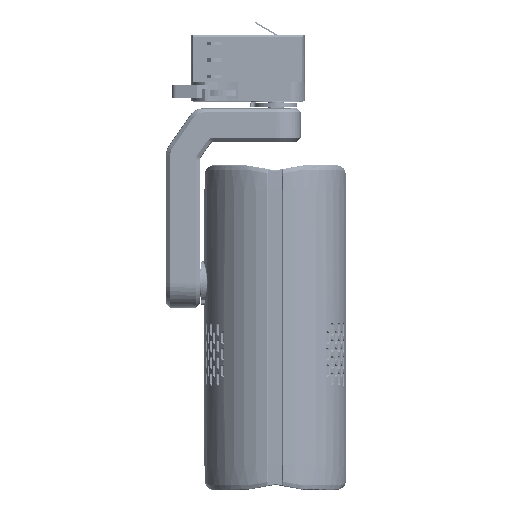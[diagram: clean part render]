
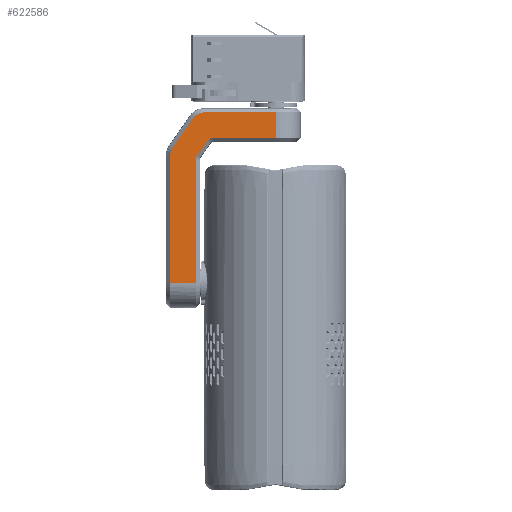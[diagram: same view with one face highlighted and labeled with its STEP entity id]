
A CAD part, top view. The second image highlights one B-rep face of the part: STEP entity #622586.
In plain terms, the highlighted planar face has unit normal (0, 0, 1).
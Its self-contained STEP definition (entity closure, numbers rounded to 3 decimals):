
#621403=CARTESIAN_POINT('',(64.,107.562,26.));
#621404=VERTEX_POINT('',#621403);
#621593=CARTESIAN_POINT('',(64.,122.938,26.));
#621594=VERTEX_POINT('',#621593);
#621908=CARTESIAN_POINT('',(15.688,20.,26.));
#621909=VERTEX_POINT('',#621908);
#622039=CARTESIAN_POINT('',(0.312,20.,26.));
#622040=VERTEX_POINT('',#622039);
#622152=CARTESIAN_POINT('',(15.688,94.439,26.));
#622153=VERTEX_POINT('',#622152);
#622154=CARTESIAN_POINT('',(15.688,20.,26.));
#622155=DIRECTION('',(0.,1.,0.));
#622156=VECTOR('',#622155,74.439);
#622157=LINE('',#622154,#622156);
#622158=EDGE_CURVE('',#621909,#622153,#622157,.T.);
#622197=CARTESIAN_POINT('',(16.473,96.929,26.));
#622198=VERTEX_POINT('',#622197);
#622205=CARTESIAN_POINT('',(15.688,94.439,26.));
#622206=CARTESIAN_POINT('',(15.688,94.885,26.));
#622207=CARTESIAN_POINT('',(15.756,95.319,26.));
#622208=CARTESIAN_POINT('',(15.889,95.743,26.));
#622209=CARTESIAN_POINT('',(16.023,96.168,26.));
#622210=CARTESIAN_POINT('',(16.218,96.564,26.));
#622211=CARTESIAN_POINT('',(16.473,96.929,26.));
#622212=B_SPLINE_CURVE_WITH_KNOTS('',3,(#622205,#622206,#622207,#622208,#622209,#622210,#622211),.UNSPECIFIED.,.F.,.F.,(4,3,4),(0.,0.001,0.003),.UNSPECIFIED.);
#622213=EDGE_CURVE('',#622153,#622198,#622212,.T.);
#622224=CARTESIAN_POINT('',(22.623,105.711,26.));
#622225=VERTEX_POINT('',#622224);
#622226=CARTESIAN_POINT('',(16.473,96.929,26.));
#622227=DIRECTION('',(0.574,0.819,0.));
#622228=VECTOR('',#622227,10.722);
#622229=LINE('',#622226,#622228);
#622230=EDGE_CURVE('',#622198,#622225,#622229,.T.);
#622273=CARTESIAN_POINT('',(26.178,107.562,26.));
#622274=VERTEX_POINT('',#622273);
#622281=CARTESIAN_POINT('',(22.623,105.711,26.));
#622282=CARTESIAN_POINT('',(22.824,105.998,26.));
#622283=CARTESIAN_POINT('',(23.055,106.256,26.));
#622284=CARTESIAN_POINT('',(23.316,106.484,26.));
#622285=CARTESIAN_POINT('',(23.446,106.599,26.));
#622286=CARTESIAN_POINT('',(23.585,106.706,26.));
#622287=CARTESIAN_POINT('',(23.728,106.805,26.));
#622288=CARTESIAN_POINT('',(23.872,106.903,26.));
#622289=CARTESIAN_POINT('',(24.02,106.992,26.));
#622290=CARTESIAN_POINT('',(24.174,107.071,26.));
#622291=CARTESIAN_POINT('',(24.327,107.151,26.));
#622292=CARTESIAN_POINT('',(24.485,107.221,26.));
#622293=CARTESIAN_POINT('',(24.647,107.283,26.));
#622294=CARTESIAN_POINT('',(24.81,107.344,26.));
#622295=CARTESIAN_POINT('',(24.978,107.396,26.));
#622296=CARTESIAN_POINT('',(25.146,107.438,26.));
#622297=CARTESIAN_POINT('',(25.484,107.52,26.));
#622298=CARTESIAN_POINT('',(25.828,107.562,26.));
#622299=CARTESIAN_POINT('',(26.178,107.562,26.));
#622300=B_SPLINE_CURVE_WITH_KNOTS('',3,(#622281,#622282,#622283,#622284,#622285,#622286,#622287,#622288,#622289,#622290,#622291,#622292,#622293,#622294,#622295,#622296,#622297,#622298,#622299),.UNSPECIFIED.,.F.,.F.,(4,3,3,3,3,3,4),(0.,0.001,0.002,0.002,0.003,0.003,0.004),.UNSPECIFIED.);
#622301=EDGE_CURVE('',#622225,#622274,#622300,.T.);
#622312=CARTESIAN_POINT('',(26.178,107.562,26.));
#622313=DIRECTION('',(1.,0.,-0.));
#622314=VECTOR('',#622313,37.822);
#622315=LINE('',#622312,#622314);
#622316=EDGE_CURVE('',#622274,#621404,#622315,.T.);
#622332=CARTESIAN_POINT('',(64.,107.562,26.));
#622333=DIRECTION('',(0.,1.,0.));
#622334=VECTOR('',#622333,15.376);
#622335=LINE('',#622332,#622334);
#622336=EDGE_CURVE('',#621404,#621594,#622335,.T.);
#622346=CARTESIAN_POINT('',(20.511,122.938,26.));
#622347=VERTEX_POINT('',#622346);
#622348=CARTESIAN_POINT('',(64.,122.938,26.));
#622349=DIRECTION('',(-1.,-0.,0.));
#622350=VECTOR('',#622349,43.489);
#622351=LINE('',#622348,#622350);
#622352=EDGE_CURVE('',#621594,#622347,#622351,.T.);
#622407=CARTESIAN_POINT('',(14.238,119.672,26.));
#622408=VERTEX_POINT('',#622407);
#622415=CARTESIAN_POINT('',(20.511,122.938,26.));
#622416=CARTESIAN_POINT('',(19.893,122.938,26.));
#622417=CARTESIAN_POINT('',(19.288,122.864,26.));
#622418=CARTESIAN_POINT('',(18.694,122.72,26.));
#622419=CARTESIAN_POINT('',(18.546,122.683,26.));
#622420=CARTESIAN_POINT('',(18.398,122.643,26.));
#622421=CARTESIAN_POINT('',(18.252,122.597,26.));
#622422=CARTESIAN_POINT('',(18.105,122.552,26.));
#622423=CARTESIAN_POINT('',(17.958,122.502,26.));
#622424=CARTESIAN_POINT('',(17.814,122.448,26.));
#622425=CARTESIAN_POINT('',(17.526,122.339,26.));
#622426=CARTESIAN_POINT('',(17.247,122.214,26.));
#622427=CARTESIAN_POINT('',(16.977,122.074,26.));
#622428=CARTESIAN_POINT('',(16.706,121.933,26.));
#622429=CARTESIAN_POINT('',(16.445,121.777,26.));
#622430=CARTESIAN_POINT('',(16.192,121.604,26.));
#622431=CARTESIAN_POINT('',(15.94,121.432,26.));
#622432=CARTESIAN_POINT('',(15.694,121.242,26.));
#622433=CARTESIAN_POINT('',(15.463,121.039,26.));
#622434=CARTESIAN_POINT('',(15.001,120.634,26.));
#622435=CARTESIAN_POINT('',(14.592,120.179,26.));
#622436=CARTESIAN_POINT('',(14.238,119.672,26.));
#622437=B_SPLINE_CURVE_WITH_KNOTS('',3,(#622415,#622416,#622417,#622418,#622419,#622420,#622421,#622422,#622423,#622424,#622425,#622426,#622427,#622428,#622429,#622430,#622431,#622432,#622433,#622434,#622435,#622436),.UNSPECIFIED.,.F.,.F.,(4,3,3,3,3,3,3,4),(0.,0.002,0.002,0.003,0.004,0.005,0.005,0.007),.UNSPECIFIED.);
#622438=EDGE_CURVE('',#622347,#622408,#622437,.T.);
#622449=CARTESIAN_POINT('',(1.697,101.762,26.));
#622450=VERTEX_POINT('',#622449);
#622451=CARTESIAN_POINT('',(14.238,119.672,26.));
#622452=DIRECTION('',(-0.574,-0.819,0.));
#622453=VECTOR('',#622452,21.864);
#622454=LINE('',#622451,#622453);
#622455=EDGE_CURVE('',#622408,#622450,#622454,.T.);
#622502=CARTESIAN_POINT('',(0.312,97.369,26.));
#622503=VERTEX_POINT('',#622502);
#622510=CARTESIAN_POINT('',(1.697,101.762,26.));
#622511=CARTESIAN_POINT('',(1.472,101.441,26.));
#622512=CARTESIAN_POINT('',(1.274,101.106,26.));
#622513=CARTESIAN_POINT('',(1.101,100.755,26.));
#622514=CARTESIAN_POINT('',(0.928,100.404,26.));
#622515=CARTESIAN_POINT('',(0.782,100.041,26.));
#622516=CARTESIAN_POINT('',(0.665,99.668,26.));
#622517=CARTESIAN_POINT('',(0.606,99.482,26.));
#622518=CARTESIAN_POINT('',(0.555,99.293,26.));
#622519=CARTESIAN_POINT('',(0.511,99.103,26.));
#622520=CARTESIAN_POINT('',(0.467,98.914,26.));
#622521=CARTESIAN_POINT('',(0.43,98.723,26.));
#622522=CARTESIAN_POINT('',(0.401,98.532,26.));
#622523=CARTESIAN_POINT('',(0.342,98.148,26.));
#622524=CARTESIAN_POINT('',(0.312,97.761,26.));
#622525=CARTESIAN_POINT('',(0.312,97.369,26.));
#622526=B_SPLINE_CURVE_WITH_KNOTS('',3,(#622510,#622511,#622512,#622513,#622514,#622515,#622516,#622517,#622518,#622519,#622520,#622521,#622522,#622523,#622524,#622525),.UNSPECIFIED.,.F.,.F.,(4,3,3,3,3,4),(0.,0.001,0.002,0.003,0.004,0.005),.UNSPECIFIED.);
#622527=EDGE_CURVE('',#622450,#622503,#622526,.T.);
#622538=CARTESIAN_POINT('',(0.312,97.369,26.));
#622539=DIRECTION('',(-0.,-1.,-0.));
#622540=VECTOR('',#622539,77.369);
#622541=LINE('',#622538,#622540);
#622542=EDGE_CURVE('',#622503,#622040,#622541,.T.);
#622558=CARTESIAN_POINT('',(0.312,20.,26.));
#622559=DIRECTION('',(1.,0.,-0.));
#622560=VECTOR('',#622559,15.376);
#622561=LINE('',#622558,#622560);
#622562=EDGE_CURVE('',#622040,#621909,#622561,.T.);
#622567=CARTESIAN_POINT('',(0.,74.75,26.));
#622568=DIRECTION('',(0.,0.,1.));
#622569=DIRECTION('',(1.,0.,0.));
#622570=AXIS2_PLACEMENT_3D('',#622567,#622568,#622569);
#622571=PLANE('',#622570);
#622572=ORIENTED_EDGE('',*,*,#622542,.T.);
#622573=ORIENTED_EDGE('',*,*,#622562,.T.);
#622574=ORIENTED_EDGE('',*,*,#622158,.T.);
#622575=ORIENTED_EDGE('',*,*,#622213,.T.);
#622576=ORIENTED_EDGE('',*,*,#622230,.T.);
#622577=ORIENTED_EDGE('',*,*,#622301,.T.);
#622578=ORIENTED_EDGE('',*,*,#622316,.T.);
#622579=ORIENTED_EDGE('',*,*,#622336,.T.);
#622580=ORIENTED_EDGE('',*,*,#622352,.T.);
#622581=ORIENTED_EDGE('',*,*,#622438,.T.);
#622582=ORIENTED_EDGE('',*,*,#622455,.T.);
#622583=ORIENTED_EDGE('',*,*,#622527,.T.);
#622584=EDGE_LOOP('',(#622572,#622573,#622574,#622575,#622576,#622577,#622578,#622579,#622580,#622581,#622582,#622583));
#622585=FACE_BOUND('',#622584,.T.);
#622586=ADVANCED_FACE('',(#622585),#622571,.T.);
